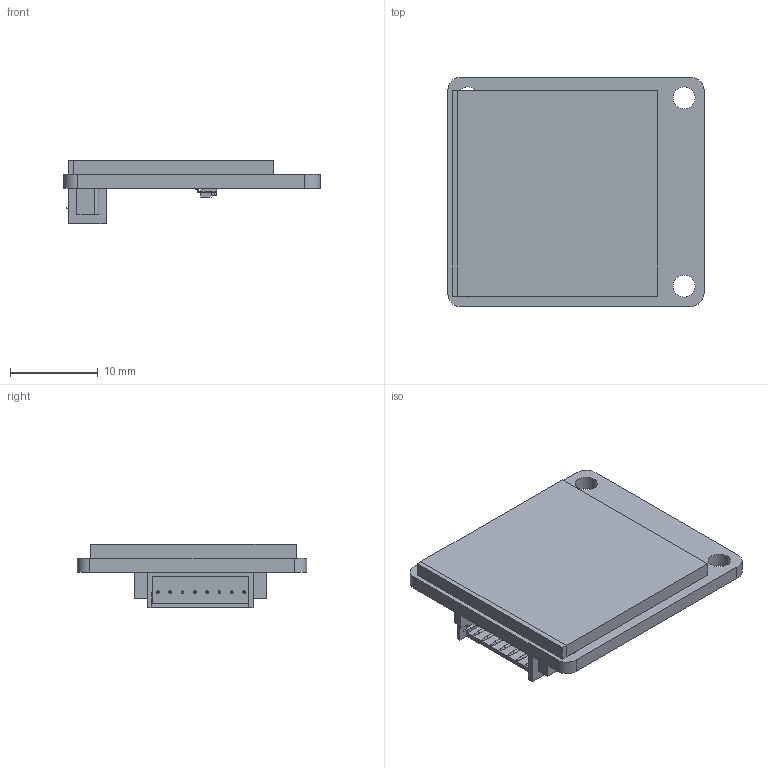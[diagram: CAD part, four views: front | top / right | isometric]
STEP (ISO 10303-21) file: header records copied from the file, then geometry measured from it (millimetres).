
FILE_DESCRIPTION(/* description */ (''),/* implementation_level */ '2;1');
FILE_NAME(/* name */ '1.3HAT_step.prt.stp',/* time_stamp */ '2025-08-18T17:39:15+08:00',/* author */ (''),/* organization */ (''),/* preprocessor_version */ 'ST-DEVELOPER v16.7',/* originating_system */ 'SIEMENS PLM Software NX 12.0',/* authorisation */ '');
FILE_SCHEMA (('AUTOMOTIVE_DESIGN { 1 0 10303 214 3 1 1 1 }'));
Length unit declared in the file: millimetre
Products named in the file (15): C_060312215; LOGO_; SOT23-3; User_Library-R0603-2; Open CASCADE STEP translator 6.8 9.1.1; Apingmu1; Ajiekou1; C_0603; C1; Q1; R1; R2; R3; Board; 1.3HAT_step
Assembly tree (16 placements, depth 4):
  1.3HAT_step
    Board
      Open CASCADE STEP translator 6.8 9.1.1
    R3
      User_Library-R0603-2
    R2
      User_Library-R0603-2
    R1
      User_Library-R0603-2
    Q1
      SOT23-3
    C1
      C_0603
        LOGO_
        C_060312215
    Ajiekou1
    Apingmu1
Bounding box: 29.15 x 26.1 x 7.2 mm (x, y, z)
Volume: 2163.6 mm3; surface area: 3524.4 mm2
Topology: 40 solids, 40 shells, 592 faces, 1416 edges, 928 vertices
Faces by surface type: plane 285, bspline 219, cylinder 72, sphere 8, cone 8
Full cylindrical faces by diameter (mm): 0.3 x8, 2.5 x4
Entity records: 21691 total; most frequent: CARTESIAN_POINT 10250, ORIENTED_EDGE 2032, DIRECTION 1610, EDGE_CURVE 1016, VERTEX_POINT 680, LINE 622, VECTOR 622, EDGE_LOOP 504
